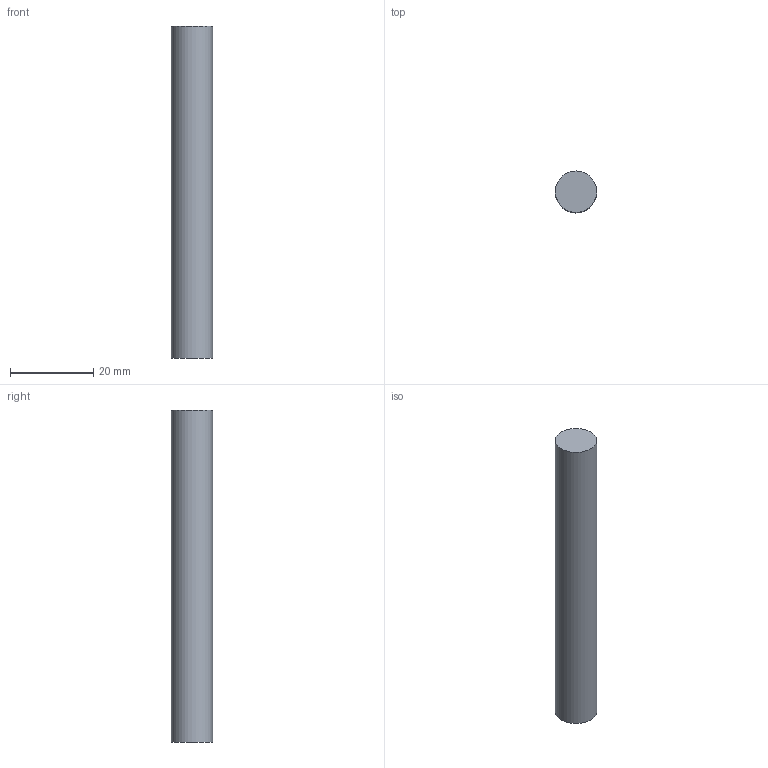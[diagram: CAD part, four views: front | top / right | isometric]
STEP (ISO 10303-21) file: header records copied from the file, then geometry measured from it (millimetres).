
FILE_DESCRIPTION(('Open CASCADE Model'),'2;1');
FILE_NAME('Open CASCADE Shape Model','2026-03-30T20:16:05',('Author'),( 'Open CASCADE'),'Open CASCADE STEP processor 7.8','Open CASCADE 7.8' ,'Unknown');
FILE_SCHEMA(('AUTOMOTIVE_DESIGN { 1 0 10303 214 1 1 1 1 }'));
Length unit declared in the file: millimetre
Products named in the file (1): Open CASCADE STEP translator 7.8 22
Bounding box: 10 x 10 x 80 mm (x, y, z)
Volume: 6283.2 mm3; surface area: 2670.4 mm2
Topology: 1 solids, 1 shells, 3 faces, 3 edges, 2 vertices
Faces by surface type: plane 2, cylinder 1
Full cylindrical faces by diameter (mm): 10 x1
Entity records: 108 total; most frequent: DIRECTION 19, CARTESIAN_POINT 15, AXIS2_PLACEMENT_3D 6, ORIENTED_EDGE 6, PCURVE 6, DEFINITIONAL_REPRESENTATION 6, LINE 5, VECTOR 5
